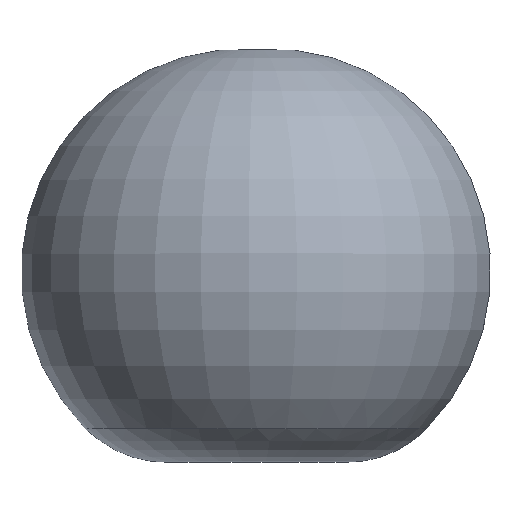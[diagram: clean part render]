
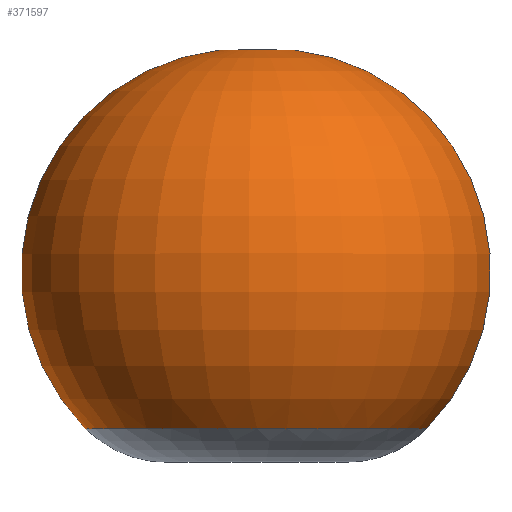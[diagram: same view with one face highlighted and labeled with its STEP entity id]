
A CAD part, top view. The second image highlights one B-rep face of the part: STEP entity #371597.
In plain terms, the highlighted toroidal (fillet/blend) face has major radius 50 mm and minor radius 759.17 mm.
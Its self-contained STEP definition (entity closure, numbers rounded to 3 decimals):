
#1872 = CARTESIAN_POINT ( 'NONE',  ( 577.899, -171.814, 101.899 ) ) ;
#6704 = CARTESIAN_POINT ( 'NONE',  ( 0., 365., 0. ) ) ;
#8135 = DIRECTION ( 'NONE',  ( -0.174, 0., -0.985 ) ) ;
#35532 = CIRCLE ( 'NONE', #484210, 586.814 ) ;
#43154 = EDGE_LOOP ( 'NONE', ( #357218, #55761, #323277 ) ) ;
#45785 = CIRCLE ( 'NONE', #446480, 759.17 ) ;
#55761 = ORIENTED_EDGE ( 'NONE', *, *, #99381, .F. ) ;
#65736 = VERTEX_POINT ( 'NONE', #403301 ) ;
#99381 = EDGE_CURVE ( 'NONE', #160853, #183278, #45785, .T. ) ;
#113653 = AXIS2_PLACEMENT_3D ( 'NONE', #6704, #463291, #240046 ) ;
#130618 = DIRECTION ( 'NONE',  ( 0., 0., -1. ) ) ;
#160853 = VERTEX_POINT ( 'NONE', #172089 ) ;
#172089 = CARTESIAN_POINT ( 'NONE',  ( 0., 1122.522, 0. ) ) ;
#183278 = VERTEX_POINT ( 'NONE', #1872 ) ;
#200698 = TOROIDAL_SURFACE ( 'NONE', #113653, 50., 759.17 ) ;
#240046 = DIRECTION ( 'NONE',  ( 0., 0., -1. ) ) ;
#273399 = EDGE_CURVE ( 'NONE', #160853, #65736, #275084, .T. ) ;
#275084 = CIRCLE ( 'NONE', #363156, 759.17 ) ;
#276284 = DIRECTION ( 'NONE',  ( 0., -1., 0. ) ) ;
#276659 = DIRECTION ( 'NONE',  ( -0.985, 0., 0.174 ) ) ;
#290175 = DIRECTION ( 'NONE',  ( 0.174, 0., -0.985 ) ) ;
#323277 = ORIENTED_EDGE ( 'NONE', *, *, #273399, .T. ) ;
#354361 = CARTESIAN_POINT ( 'NONE',  ( 49.24, 365., -8.682 ) ) ;
#357218 = ORIENTED_EDGE ( 'NONE', *, *, #391273, .F. ) ;
#363156 = AXIS2_PLACEMENT_3D ( 'NONE', #354361, #8135, #276659 ) ;
#371597 = ADVANCED_FACE ( 'NONE', ( #395512 ), #200698, .T. ) ;
#391273 = EDGE_CURVE ( 'NONE', #183278, #65736, #35532, .T. ) ;
#395512 = FACE_OUTER_BOUND ( 'NONE', #43154, .T. ) ;
#403301 = CARTESIAN_POINT ( 'NONE',  ( 577.899, -171.814, -101.899 ) ) ;
#443072 = DIRECTION ( 'NONE',  ( -0.985, 0., -0.174 ) ) ;
#445568 = CARTESIAN_POINT ( 'NONE',  ( 49.24, 365., 8.682 ) ) ;
#446480 = AXIS2_PLACEMENT_3D ( 'NONE', #445568, #290175, #443072 ) ;
#463291 = DIRECTION ( 'NONE',  ( 0., -1., 0. ) ) ;
#474225 = CARTESIAN_POINT ( 'NONE',  ( 0., -171.814, 0. ) ) ;
#484210 = AXIS2_PLACEMENT_3D ( 'NONE', #474225, #276284, #130618 ) ;
